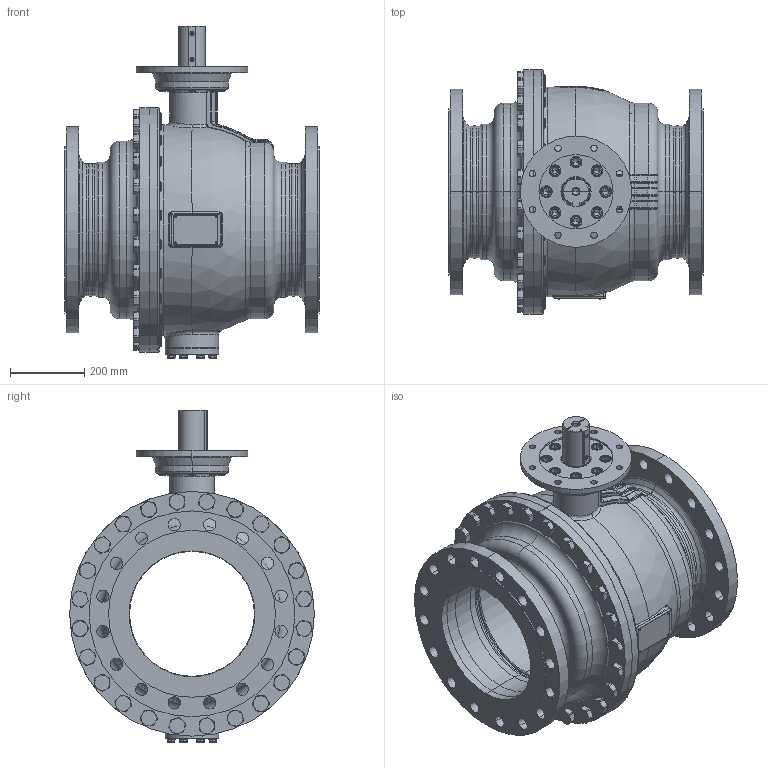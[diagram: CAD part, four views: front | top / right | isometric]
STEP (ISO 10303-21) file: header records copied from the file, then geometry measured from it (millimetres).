
FILE_DESCRIPTION((''),'2;1');
FILE_NAME('KHI-F_350_PN025-F25-P_SW0001','2026-02-05T15:22:07',('fischerkl'),('KLINGER'),'CREO PARAMETRIC BY PTC INC, 2023014','CREO PARAMETRIC BY PTC INC, 2023014','');
FILE_SCHEMA(('CONFIG_CONTROL_DESIGN'));
Products named in the file (1): KHI-F_350_PN025-F25-P_SW0001
Bounding box: 686 x 660 x 895.8 mm (x, y, z)
Volume: 46085392.2 mm3; surface area: 6026843.4 mm2
Topology: 1 solids, 4 shells, 3414 faces, 8622 edges, 5384 vertices
Faces by surface type: plane 1743, cylinder 799, cone 448, torus 295, bspline 99, sphere 30
Entity records: 144149 total; most frequent: CARTESIAN_POINT 62725, ORIENTED_EDGE 17192, DIRECTION 16862, EDGE_CURVE 8596, AXIS2_PLACEMENT_3D 6429, VERTEX_POINT 5384, VECTOR 4004, LINE 4004
